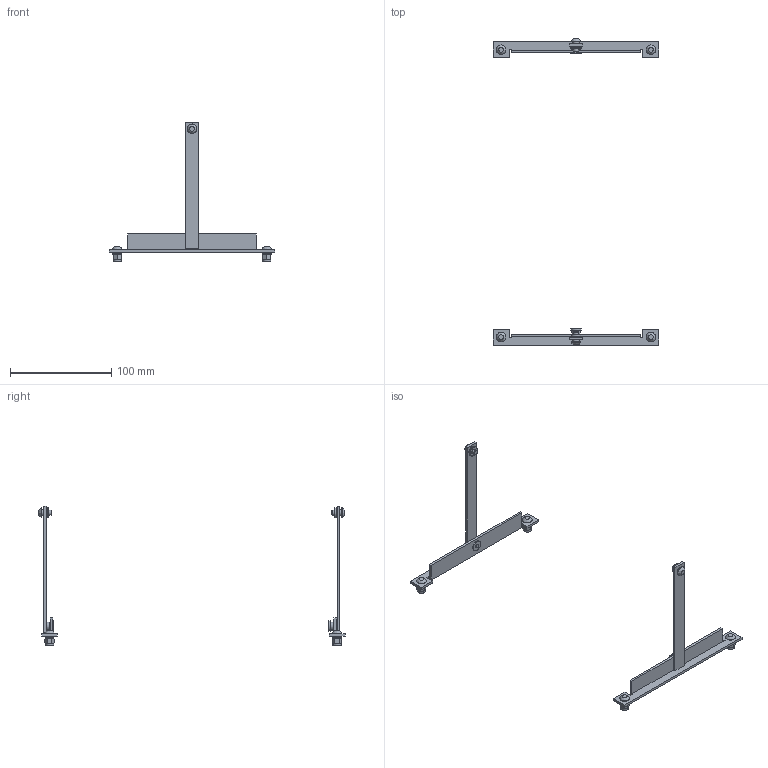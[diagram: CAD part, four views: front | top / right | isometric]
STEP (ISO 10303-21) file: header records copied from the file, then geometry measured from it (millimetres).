
FILE_DESCRIPTION( ( 'STEP AP214' ), '1' );
FILE_NAME( 'p:/temp/worker_92/temp/exporttempdir_2044_40_BzfTg/format_0/ADO202S(0).stp', '2021-03-15T12:16:22', ( 'License CC BY-ND 4.0' ), ( 'CADENAS' ), ' ', 'PARTsolutions', ' ' );
FILE_SCHEMA( ( 'AUTOMOTIVE_DESIGN { 1 0 10303 214 1 1 1 1 }' ) );
Length unit declared in the file: millimetre
Products named in the file (4): ADO202S(0); _ADO202S(0)_P1; _ADO202S(0)_P2; _ADO202S(0)_P3
Assembly tree (4 placements, depth 2):
  ADO202S(0)
    _ADO202S(0)_P1  x2
    _ADO202S(0)_P2
    _ADO202S(0)_P3
Bounding box: 164 x 302.65 x 138 mm (x, y, z)
Volume: 31584 mm3; surface area: 28166 mm2
Topology: 4 solids, 4 shells, 200 faces, 414 edges, 258 vertices
Faces by surface type: plane 104, cone 56, cylinder 34, bspline 6
Full cylindrical faces by diameter (mm): 2.6 x1, 4 x1, 5 x6, 6 x2, 6.3 x2, 8 x6, 8.5 x6, 9.5 x6, 10 x2, 10.4 x2
Entity records: 4296 total; most frequent: CARTESIAN_POINT 809, DIRECTION 500, ORIENTED_EDGE 420, AXIS2_PLACEMENT_3D 211, EDGE_CURVE 210, EDGE_LOOP 188, FACE_OUTER_BOUND 156, VERTEX_POINT 152
